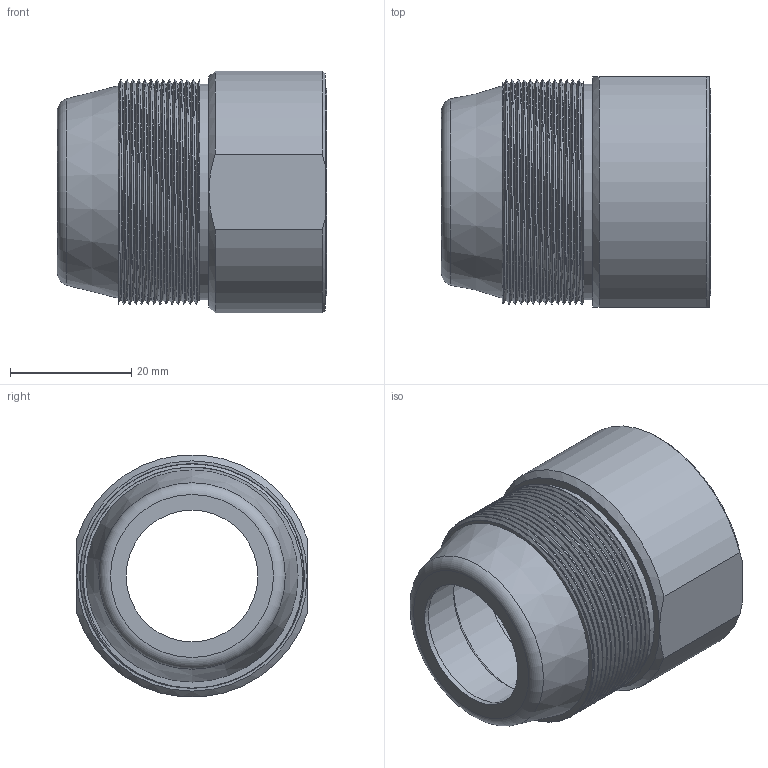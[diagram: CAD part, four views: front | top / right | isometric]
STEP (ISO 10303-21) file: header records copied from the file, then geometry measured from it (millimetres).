
FILE_DESCRIPTION (( 'STEP AP203' ), '1' );
FILE_NAME ('SH.IR5.A-»¤Ì×P-20250519.STEP', '2025-05-21T06:33:10', ( '' ), ( '' ), 'SwSTEP 2.0', 'SolidWorks 2023', '' );
FILE_SCHEMA (( 'CONFIG_CONTROL_DESIGN' ));
Length unit declared in the file: millimetre
Products named in the file (1): SH.IR5.A-护套P-20250519
Bounding box: 44.4 x 38 x 39.86 mm (x, y, z)
Volume: 15269.3 mm3; surface area: 12459.6 mm2
Topology: 1 solids, 1 shells, 37 faces, 75 edges, 49 vertices
Faces by surface type: plane 13, cylinder 11, cone 6, bspline 6, torus 1
Full cylindrical faces by diameter (mm): 21.72 x1, 25 x1, 31 x1, 32.4 x1, 32.5 x1, 34 x1, 35.5 x1
Entity records: 5192 total; most frequent: CARTESIAN_POINT 4433, DIRECTION 130, ORIENTED_EDGE 128, EDGE_CURVE 64, AXIS2_PLACEMENT_3D 62, EDGE_LOOP 58, VERTEX_POINT 48, FACE_OUTER_BOUND 45
